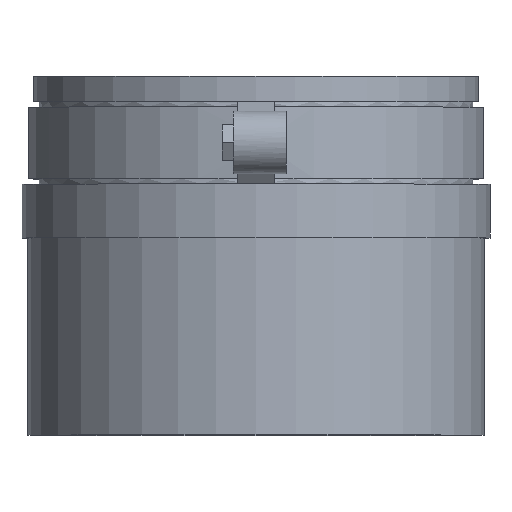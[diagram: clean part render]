
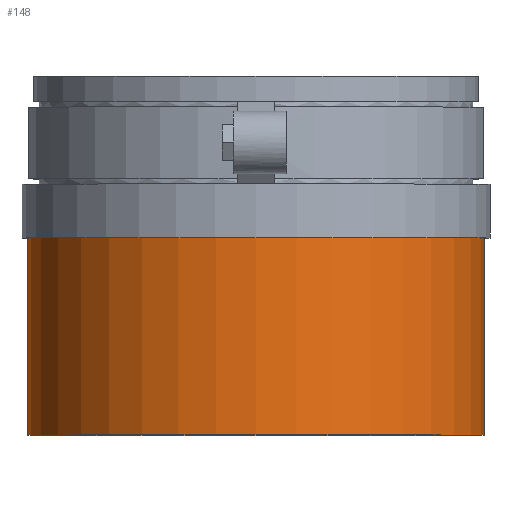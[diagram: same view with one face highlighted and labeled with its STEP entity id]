
A CAD part, top view. The second image highlights one B-rep face of the part: STEP entity #148.
In plain terms, the highlighted cylindrical face has radius 60.5 mm (diameter 121 mm), a full revolution.
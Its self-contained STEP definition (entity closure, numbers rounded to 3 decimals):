
#148 = ADVANCED_FACE( '', ( #316, #317 ), #318, .T. );
#316 = FACE_OUTER_BOUND( '', #491, .T. );
#317 = FACE_OUTER_BOUND( '', #492, .T. );
#318 = CYLINDRICAL_SURFACE( '', #493, 60.5 );
#491 = EDGE_LOOP( '', ( #858 ) );
#492 = EDGE_LOOP( '', ( #859 ) );
#493 = AXIS2_PLACEMENT_3D( '', #860, #861, #862 );
#858 = ORIENTED_EDGE( '', *, *, #1024, .F. );
#859 = ORIENTED_EDGE( '', *, *, #996, .T. );
#860 = CARTESIAN_POINT( '', ( 0., 0., 0. ) );
#861 = DIRECTION( '', ( 0., 1., 0. ) );
#862 = DIRECTION( '', ( 0., 0., -1. ) );
#996 = EDGE_CURVE( '', #1178, #1178, #1179, .T. );
#1024 = EDGE_CURVE( '', #1228, #1228, #1229, .T. );
#1178 = VERTEX_POINT( '', #1448 );
#1179 = CIRCLE( '', #1449, 60.5 );
#1228 = VERTEX_POINT( '', #1516 );
#1229 = CIRCLE( '', #1517, 60.5 );
#1448 = CARTESIAN_POINT( '', ( 0., 52.25, -60.5 ) );
#1449 = AXIS2_PLACEMENT_3D( '', #1824, #1825, #1826 );
#1516 = CARTESIAN_POINT( '', ( 0., 0., -60.5 ) );
#1517 = AXIS2_PLACEMENT_3D( '', #1857, #1858, #1859 );
#1824 = CARTESIAN_POINT( '', ( 0., 52.25, 0. ) );
#1825 = DIRECTION( '', ( 0., -1., 0. ) );
#1826 = DIRECTION( '', ( 0., 0., -1. ) );
#1857 = CARTESIAN_POINT( '', ( 0., 0., 0. ) );
#1858 = DIRECTION( '', ( 0., -1., 0. ) );
#1859 = DIRECTION( '', ( 0., 0., -1. ) );
